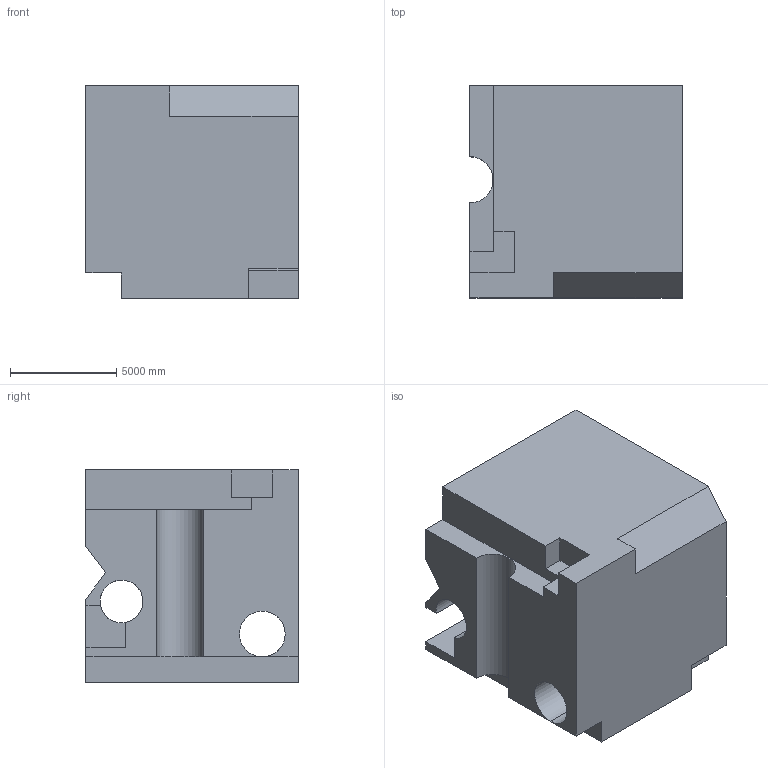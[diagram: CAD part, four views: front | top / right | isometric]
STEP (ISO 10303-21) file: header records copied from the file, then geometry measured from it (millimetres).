
FILE_DESCRIPTION (( 'STEP AP203' ), '1' );
FILE_NAME ('1977.STEP', '2022-08-25T16:56:17', ( 'user' ), ( '' ), 'SwSTEP 2.0', 'SolidWorks 2021', '' );
FILE_SCHEMA (( 'CONFIG_CONTROL_DESIGN' ));
Length unit declared in the file: centimetre
Products named in the file (1): 1977
Bounding box: 10000 x 10000 x 10000 mm (x, y, z)
Volume: 834071771037.7 mm3; surface area: 720640141.5 mm2
Topology: 1 solids, 1 shells, 33 faces, 99 edges, 66 vertices
Faces by surface type: plane 28, cylinder 5
Entity records: 1192 total; most frequent: CARTESIAN_POINT 199, ORIENTED_EDGE 198, DIRECTION 181, EDGE_CURVE 99, LINE 85, VECTOR 85, VERTEX_POINT 66, AXIS2_PLACEMENT_3D 48
